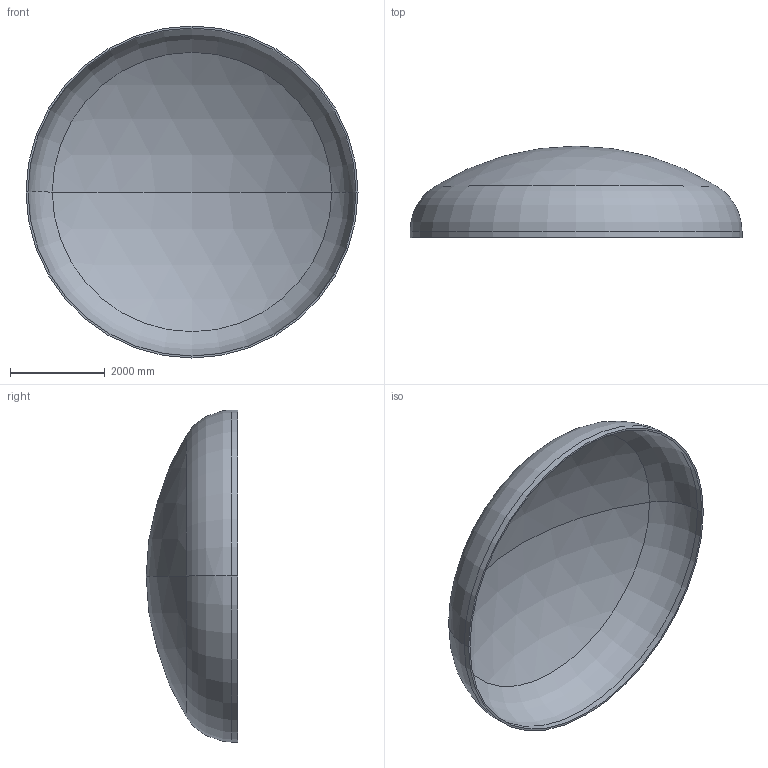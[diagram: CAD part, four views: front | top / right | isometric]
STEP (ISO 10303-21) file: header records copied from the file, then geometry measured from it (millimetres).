
FILE_DESCRIPTION (( 'STEP AP203' ), '1' );
FILE_NAME ('DIN 28013 Korbbogenform_-_Boden DIN 28013 - 7000 x 130 - I - s=42.step', '2016-07-04T10:47:22', ( '' ), ( '' ), 'SwSTEP 2.0', 'SolidWorks 2013', '' );
FILE_SCHEMA (( 'CONFIG_CONTROL_DESIGN' ));
Length unit declared in the file: millimetre
Products named in the file (1): DIN 28013 Korbbogenform_-_Boden DIN 28013 - 7000 x 130 - I - s=42
Bounding box: 7000 x 1928.11 x 7000 mm (x, y, z)
Volume: 2341137918.4 mm3; surface area: 112404495.6 mm2
Topology: 1 solids, 1 shells, 13 faces, 24 edges, 14 vertices
Faces by surface type: torus 4, cylinder 4, sphere 4, plane 1
Entity records: 407 total; most frequent: DIRECTION 72, CARTESIAN_POINT 52, ORIENTED_EDGE 48, AXIS2_PLACEMENT_3D 34, EDGE_CURVE 24, CIRCLE 20, EDGE_LOOP 14, VERTEX_POINT 14
